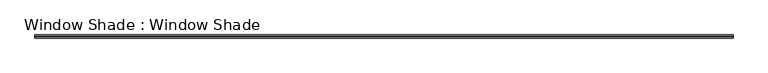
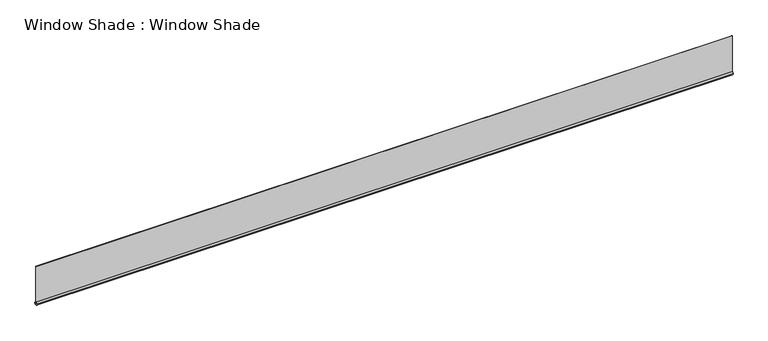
"""IFC4 building model written with IfcOpenShell, lengths in millimetres: furniture geometry, Window Shade : Window Shade."""

from ifc_helpers import new_model, si_unit, point, frame, frame_2d, origin, place, context, project, spatial, polyline, circle_curve, trimmed, segment, composite_curve, outline, extrude, source, transform, mapped, element, save


def window_shade_window_shade_e3a3d960(model_context):
    return source(origin(), model_context, "Body", "SweptSolid", [
        extrude(outline(polyline([(2825.0873352, 1.5875), (2825.0873352, -1.5875), (-2825.0873352, -1.5875), (-2825.0873352, 1.5875), (2825.0873352, 1.5875)])), frame((0.0, 0.0, 3340.1), z_axis=(0.0, 0.0, 1.0), x_axis=(1.0, 0.0, 0.0)), (0.0, 0.0, 1.0), 317.5),
        extrude(outline(composite_curve([segment(trimmed(circle_curve(frame_2d((0.0, 3340.1)), 12.7), [point((-12.7, 3340.1))], [point((12.7, 3340.1))], False, "CARTESIAN"), True, "CONTINUOUS"), segment(trimmed(circle_curve(frame_2d((0.0, 3340.1)), 12.7), [point((12.7, 3340.1))], [point((-12.7, 3340.1))], False, "CARTESIAN"), True, "CONTINUOUS")], self_intersect=False)), frame((-2825.0873352, 0.0, 0.0), z_axis=(1.0, 0.0, 0.0), x_axis=(0.0, 1.0, 0.0)), (0.0, 0.0, 1.0), 5650.1746704),
    ])


if __name__ == "__main__":
    model = new_model("IFC4")
    model_context = context("Model", 3, world=origin())
    ifc_project = project(units=[si_unit("LENGTHUNIT", "METRE", prefix="MILLI")], contexts=[model_context])
    site = spatial("IfcSite", under=ifc_project)
    building = spatial("IfcBuilding", under=site)
    placement = place(None, origin())
    window_shade_window_shade_shape = window_shade_window_shade_e3a3d960(model_context)
    element("IfcFurniture", 1, ObjectType="Window Shade : Window Shade", at=placement, inside=building, context=model_context, shape_type="MappedRepresentation", body=[
        mapped(window_shade_window_shade_shape, transform((0.0, 0.0, 0.0), x_axis=(1.0, 0.0, 0.0), y_axis=(0.0, 1.0, 0.0), z_axis=(0.0, 0.0, 1.0))),
    ])
    save(model, "model.ifc")
